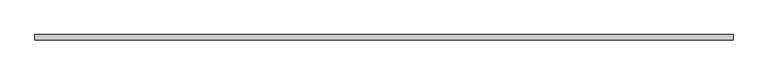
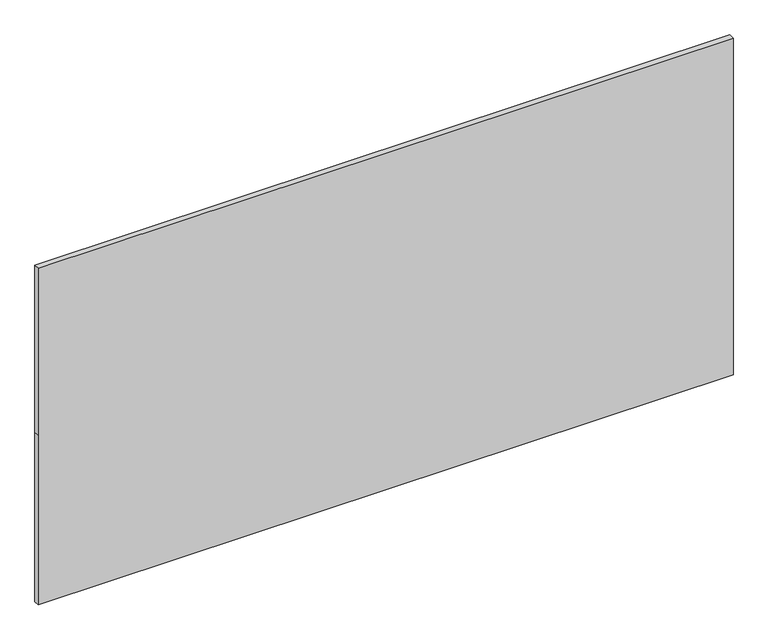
"""IFC4 building model written with IfcOpenShell, lengths in millimetres: plate geometry, Panneau système : Vitrages extérieur."""

from ifc_helpers import new_model, si_unit, frame, origin, place, context, project, spatial, polyline, outline, extrude, source, transform, mapped, element, save


def plate_da70d993(model_context):
    return source(origin(), model_context, "Body", "SweptSolid", [
        extrude(outline(polyline([(0.0, -1515.1048276), (0.0, 1515.1048276), (779.8302654, 1515.1048276), (1550.8838854, 1515.1048276), (1550.8838854, -1515.1048276), (779.8302654, -1515.1048276), (0.0, -1515.1048276)])), frame((0.0, -12.0, 0.0), z_axis=(0.0, 1.0, 0.0), x_axis=(0.0, 0.0, 1.0)), (0.0, 0.0, 1.0), 24.0),
    ])


if __name__ == "__main__":
    model = new_model("IFC4")
    model_context = context("Model", 3, world=origin())
    ifc_project = project(units=[si_unit("LENGTHUNIT", "METRE", prefix="MILLI")], contexts=[model_context])
    site = spatial("IfcSite", under=ifc_project)
    building = spatial("IfcBuilding", under=site)
    placement = place(None, origin())
    plate_shape = plate_da70d993(model_context)
    element("IfcPlate", 1, ObjectType="Panneau système : Vitrages extérieur", at=placement, inside=building, context=model_context, shape_type="MappedRepresentation", body=[
        mapped(plate_shape, transform((0.0, 0.0, 0.0), x_axis=(1.0, 0.0, 0.0), y_axis=(0.0, 1.0, 0.0), z_axis=(0.0, 0.0, 1.0))),
    ])
    save(model, "model.ifc")
